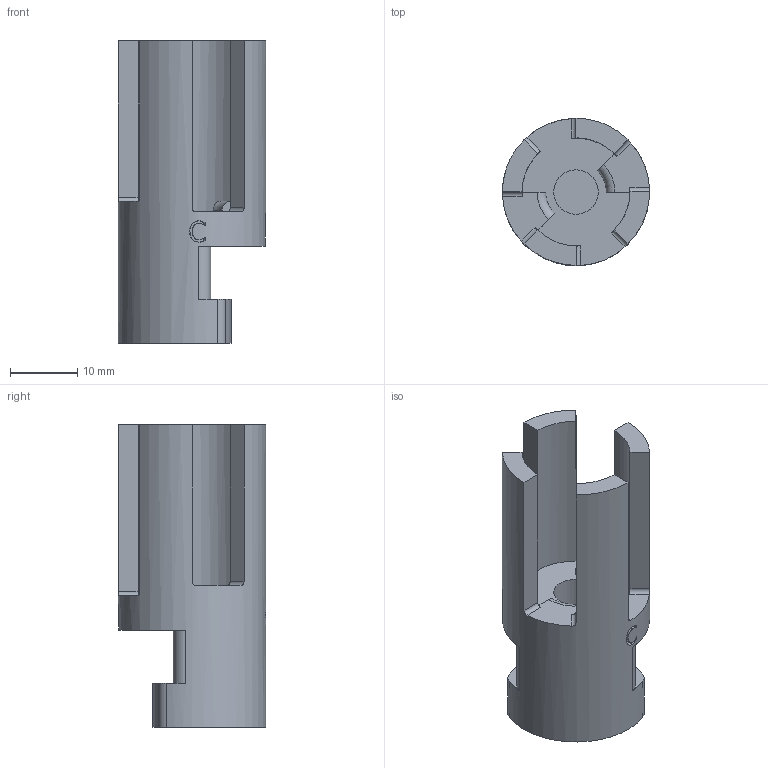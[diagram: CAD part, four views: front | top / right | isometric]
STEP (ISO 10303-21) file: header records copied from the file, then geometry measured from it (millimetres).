
FILE_DESCRIPTION(/* description */ (''),/* implementation_level */ '2;1');
FILE_NAME(/* name */ 'D:\Downloads\Project-ButWhatAbout-ECM-9x19-Barrel-DIY-V1-Package (3)\Revised Components\asdf\ECM CAD\STEP\Chambering End Pilot Inch (0.250in).stp',/* time_stamp */ '2021-02-15T01:56:25-06:00',/* author */ ('johne'),/* organization */ (''),/* preprocessor_version */ 'ST-DEVELOPER v18',/* originating_system */ 'Autodesk Inventor 2020',/* authorisation */ '');
FILE_SCHEMA (('AUTOMOTIVE_DESIGN { 1 0 10303 214 3 1 1 }'));
Length unit declared in the file: millimetre
Products named in the file (1): chambering Tool 250 rod
Bounding box: 21.84 x 21.84 x 44.91 mm (x, y, z)
Volume: 6289.1 mm3; surface area: 4203.1 mm2
Topology: 1 solids, 1 shells, 67 faces, 192 edges, 128 vertices
Faces by surface type: plane 23, cylinder 22, bspline 20, torus 2
Full cylindrical faces by diameter (mm): 6.604 x1, 21.844 x1
Entity records: 2823 total; most frequent: CARTESIAN_POINT 1144, ORIENTED_EDGE 384, DIRECTION 280, EDGE_CURVE 192, VERTEX_POINT 128, AXIS2_PLACEMENT_3D 96, LINE 88, VECTOR 88
